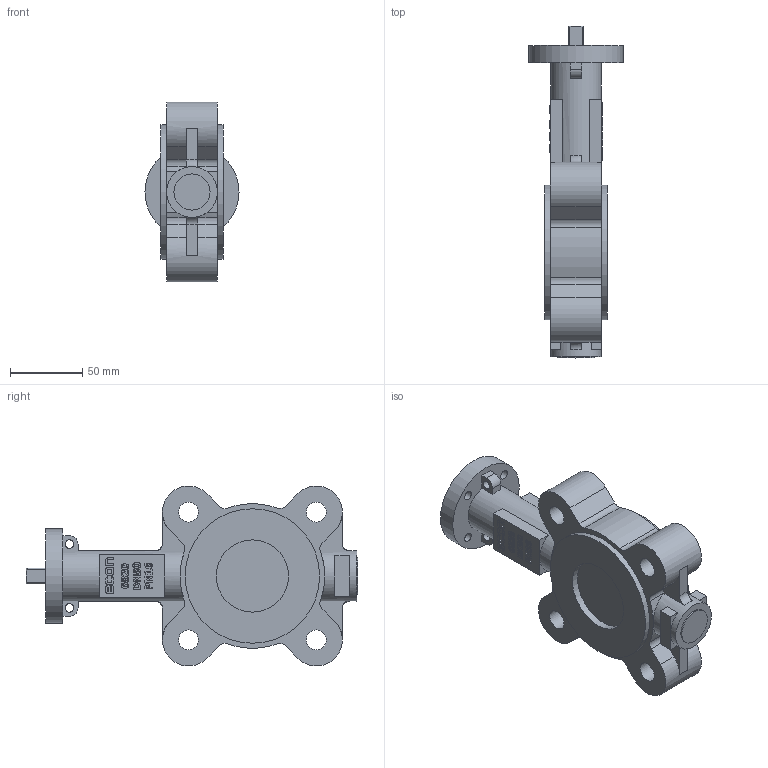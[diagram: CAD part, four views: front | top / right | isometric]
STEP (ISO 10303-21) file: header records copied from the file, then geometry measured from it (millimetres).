
FILE_DESCRIPTION(/* description */ (''),/* implementation_level */ '2;1');
FILE_NAME(/* name */ '6820-DN50-PN16-EPDM - 13332745.stp',/* time_stamp */ '2024-09-04T21:43:01+02:00',/* author */ ('roger.thijssen'),/* organization */ (''),/* preprocessor_version */ 'ST-DEVELOPER v20',/* originating_system */ 'Autodesk Inventor 2024',/* authorisation */ '');
FILE_SCHEMA (('AUTOMOTIVE_DESIGN { 1 0 10303 214 3 1 1 }'));
Length unit declared in the file: millimetre
Products named in the file (1): 6820-DN50-PN16
Bounding box: 65 x 229.5 x 124.25 mm (x, y, z)
Volume: 585032.9 mm3; surface area: 74438.1 mm2
Topology: 1 solids, 1 shells, 463 faces, 1244 edges, 823 vertices
Faces by surface type: plane 250, bspline 127, cylinder 77, cone 5, torus 4
Full cylindrical faces by diameter (mm): 4.917 x1, 6 x2, 6.5 x4, 13.835 x4, 25 x1, 35 x2, 50 x2, 65 x1, 93 x2
Entity records: 16288 total; most frequent: CARTESIAN_POINT 4844, ORIENTED_EDGE 2486, DIRECTION 1835, EDGE_CURVE 1243, VERTEX_POINT 823, LINE 769, VECTOR 769, AXIS2_PLACEMENT_3D 533
